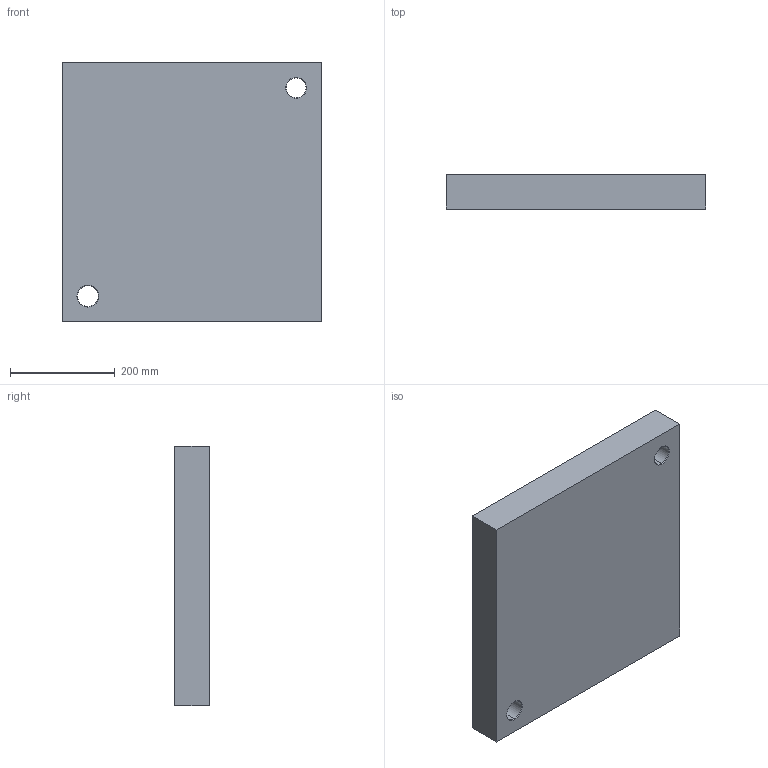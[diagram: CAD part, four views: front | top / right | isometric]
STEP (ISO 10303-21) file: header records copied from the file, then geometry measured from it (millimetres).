
FILE_DESCRIPTION (( 'STEP AP214' ), '1' );
FILE_NAME ('SDS300-C1-496x496x66.STEP', '2020-09-10T10:00:54', ( 'August' ), ( '' ), 'SwSTEP 2.0', 'SolidWorks 2018', '' );
FILE_SCHEMA (( 'AUTOMOTIVE_DESIGN' ));
Length unit declared in the file: millimetre
Products named in the file (1): SDS300-C1-496x496x66
Bounding box: 496 x 66 x 496 mm (x, y, z)
Volume: 16075054.4 mm3; surface area: 636709.1 mm2
Topology: 1 solids, 1 shells, 90 faces, 200 edges, 112 vertices
Faces by surface type: cone 40, cylinder 36, plane 14
Entity records: 2410 total; most frequent: DIRECTION 462, CARTESIAN_POINT 387, ORIENTED_EDGE 368, AXIS2_PLACEMENT_3D 187, EDGE_CURVE 184, VERTEX_POINT 112, EDGE_LOOP 110, CIRCLE 96
